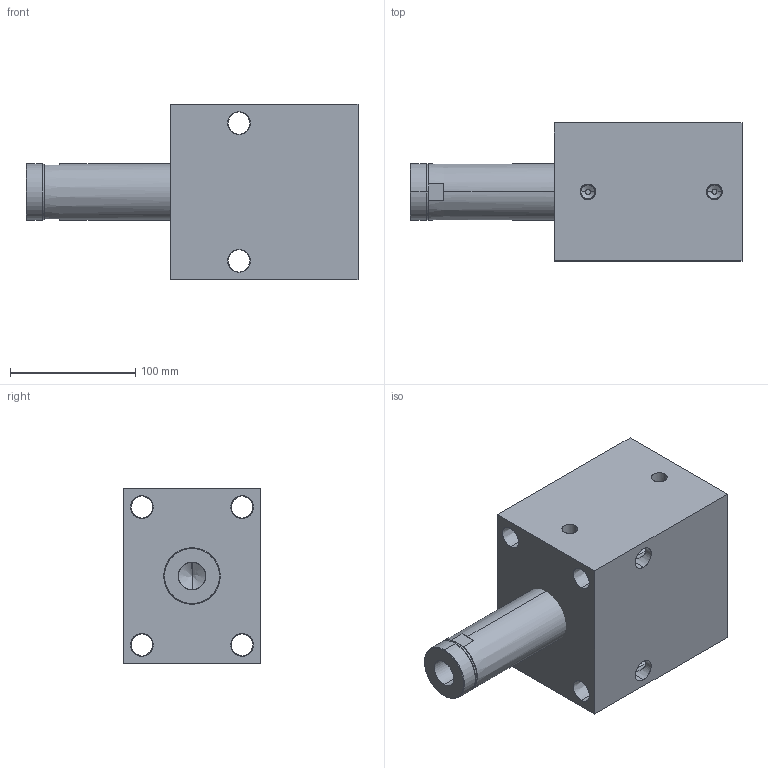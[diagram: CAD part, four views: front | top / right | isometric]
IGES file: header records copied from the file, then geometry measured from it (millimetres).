
Start section: SolidWorks IGES file using analytic representation for surfaces
Global section: file name: C:\Documents and Settings\rajib\Desktop\Rajib\BLOCK CYLINDER HYDRAULIC\0701-0704\IGS 0701-0708\0708.IGS; native system: SolidWorks 2007; preprocessor: SolidWorks 2007; author: rajib; date: 110121.160744; units: millimetre
Bounding box: 265 x 110 x 140 mm (x, y, z)
Surface area: 170781.9 mm2 (no closed solid volume)
Topology: 0 solids, 0 shells, 80 faces, 1904 edges, 1902 vertices
Faces by surface type: revolution 58, bspline 22
